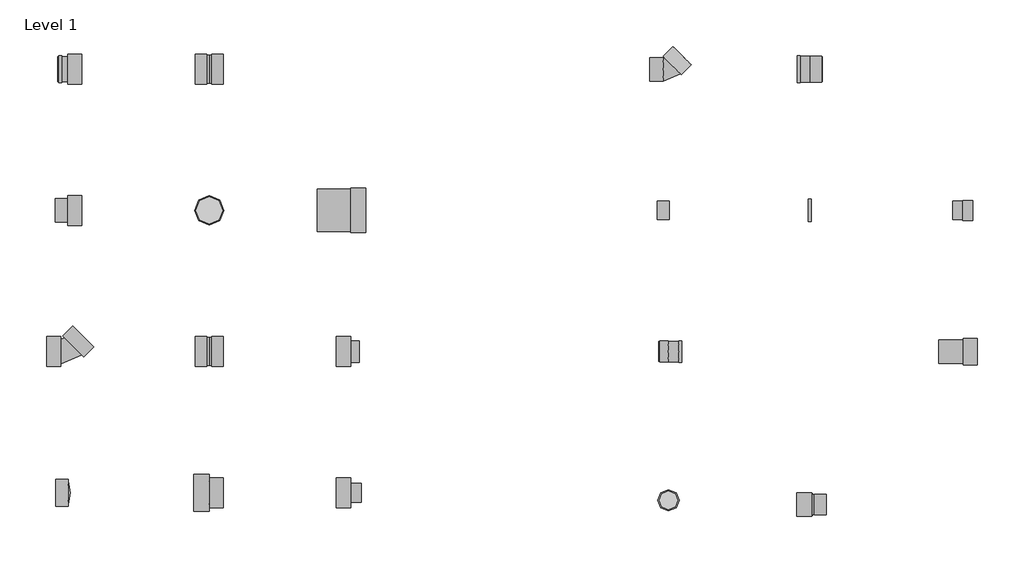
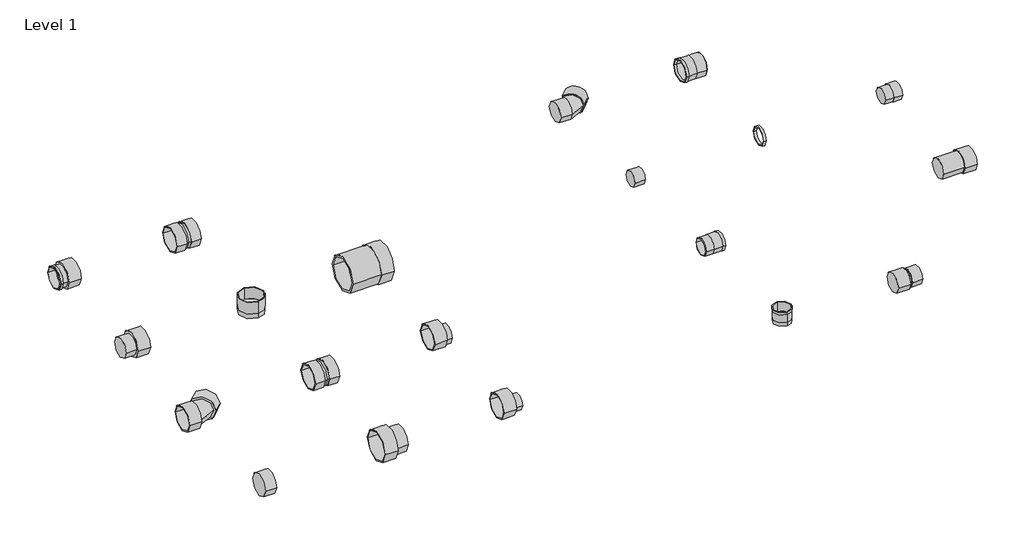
# One storey, incomplete: 20 pipe fittings.
"""IFC4 building model written with IfcOpenShell, lengths in millimetres."""

from ifc_helpers import new_model, si_unit, origin, place, context, project, spatial, transform, mapped, element, save
from components import pipe_fitting_cc6bbe59, pipe_fitting_8a5913c7, pipe_fitting_fdf45396, pipe_fitting_64016db7, pipe_fitting_c3827e3d, pipe_fitting_bfb84d33, pipe_fitting_59f1cc2e, pipe_fitting_40f565c3, pipe_fitting_63e97548, pipe_fitting_346089aa, pipe_fitting_23aedb06, pipe_fitting_160_3ae30848, pipe_fitting_160x160_6d9ae933, pipe_fitting_200_01b674ff, pipe_fitting_200x160_b7d51f9c, pipe_fitting_200x160_0dcb651a, pipe_fitting_200x200_a64cda1f, pipe_fitting_200x200_34b12068, pipe_fitting_200x200_617974e3, pipe_fitting_300x315_3f0d24aa

model = new_model("IFC4")

# Units and contexts
model_context = context("Model", 3, world=origin())
ifc_project = project(units=[si_unit("LENGTHUNIT", "METRE", prefix="MILLI")], contexts=[model_context])

# Site, building, storey
site = spatial("IfcSite", under=ifc_project)
building = spatial("IfcBuilding", under=site)
storey = spatial("IfcBuildingStorey", under=building, Name="Level 1", Elevation=0.0)

# Pipe fittings
placement = place(None, origin())
pipe_fitting_shape = pipe_fitting_cc6bbe59(model_context)
element("IfcPipeFitting", 1, ObjectType="Pipelife - Pragma OD - Kolano kanalizacyjne : Pipelife - Pragma OD - Kolano kanalizacyjne", at=placement, inside=storey, context=model_context, shape_type="MappedRepresentation", body=[
    mapped(pipe_fitting_shape, transform((-11832.6671252, 586.050427, 0.0), x_axis=(1.0, 0.0, 0.0), y_axis=(0.0, 1.0, 0.0), z_axis=(0.0, 0.0, 1.0))),
])
pipe_fitting_2_shape = pipe_fitting_8a5913c7(model_context)
element("IfcPipeFitting", 2, ObjectType="Pipelife - Pragma OD - Nasuwka kanalizacyjna : Pipelife - Pragma OD - Nasuwka kanalizacyjna", at=placement, inside=storey, context=model_context, shape_type="MappedRepresentation", body=[
    mapped(pipe_fitting_2_shape, transform((-10632.6671252, 586.050427, 0.0), x_axis=(1.0, 0.0, 0.0), y_axis=(0.0, 1.0, 0.0), z_axis=(0.0, 0.0, 1.0))),
])
pipe_fitting_3_shape = pipe_fitting_fdf45396(model_context)
element("IfcPipeFitting", 3, ObjectType="Pipelife - Pragma OD - Łącznik kanalizacyjny : Pipelife - Pragma OD - Łącznik kanalizacyjny", at=placement, inside=storey, context=model_context, shape_type="MappedRepresentation", body=[
    mapped(pipe_fitting_3_shape, transform((-11832.6671252, -1813.949573, 0.0), x_axis=(1.0, 0.0, 0.0), y_axis=(0.0, 1.0, 0.0), z_axis=(0.0, 0.0, 1.0))),
])
pipe_fitting_4_shape = pipe_fitting_64016db7(model_context)
element("IfcPipeFitting", 4, ObjectType="Pipelife - Pragma +ID - Kolano kanalizacyjne : Pipelife - Pragma +ID - Kolano kanalizacyjne", at=placement, inside=storey, context=model_context, shape_type="MappedRepresentation", body=[
    mapped(pipe_fitting_4_shape, transform((-16932.6671252, -1813.949573, 0.0), x_axis=(1.0, 0.0, 0.0), y_axis=(0.0, 1.0, 0.0), z_axis=(0.0, 0.0, 1.0))),
])
pipe_fitting_5_shape = pipe_fitting_c3827e3d(model_context)
element("IfcPipeFitting", 5, ObjectType="Pipelife - Pragma +ID - Korek kanalizacyjny : Pipelife - Pragma +ID - Korek kanalizacyjny", at=placement, inside=storey, context=model_context, shape_type="MappedRepresentation", body=[
    mapped(pipe_fitting_5_shape, transform((-16932.6671252, -3013.949573, 0.0), x_axis=(1.0, 0.0, 0.0), y_axis=(0.0, 1.0, 0.0), z_axis=(0.0, 0.0, 1.0))),
])
pipe_fitting_6_shape = pipe_fitting_bfb84d33(model_context)
element("IfcPipeFitting", 6, ObjectType="Pipelife - Pragma +ID - Łącznik kanałowy : Pipelife - Pragma +ID - Łącznik kanałowy", at=placement, inside=storey, context=model_context, shape_type="MappedRepresentation", body=[
    mapped(pipe_fitting_6_shape, transform((-15732.6671252, 586.050427, 0.0), x_axis=(1.0, 0.0, 0.0), y_axis=(0.0, 1.0, 0.0), z_axis=(0.0, 0.0, 1.0))),
])
pipe_fitting_7_shape = pipe_fitting_59f1cc2e(model_context)
element("IfcPipeFitting", 7, ObjectType="Pipelife - Pragma +ID - Nasuwka reparacyjna : Pipelife - Pragma +ID - Nasuwka reparacyjna", at=placement, inside=storey, context=model_context, shape_type="MappedRepresentation", body=[
    mapped(pipe_fitting_7_shape, transform((-15732.6671252, -1813.949573, 0.0), x_axis=(1.0, 0.0, 0.0), y_axis=(0.0, 1.0, 0.0), z_axis=(0.0, 0.0, 1.0))),
])
pipe_fitting_8_shape = pipe_fitting_40f565c3(model_context)
element("IfcPipeFitting", 8, ObjectType="Pipelife - Pragma +ID - Redukcja kanalizacyjna : Pipelife - Pragma +ID - Redukcja kanalizacyjna", at=placement, inside=storey, context=model_context, shape_type="MappedRepresentation", body=[
    mapped(pipe_fitting_8_shape, transform((-15732.6671252, -3013.949573, 0.0), x_axis=(1.0, 0.0, 0.0), y_axis=(0.0, 1.0, 0.0), z_axis=(0.0, 0.0, 1.0))),
])
pipe_fitting_9_shape = pipe_fitting_63e97548(model_context)
element("IfcPipeFitting", 9, ObjectType="Pipelife - Pragma OD - Korek kanalizacyjny : Pipelife - Pragma OD - Korek kanalizacyjny", at=placement, inside=storey, context=model_context, shape_type="MappedRepresentation", body=[
    mapped(pipe_fitting_9_shape, transform((-11832.6671252, -613.949573, 0.0), x_axis=(1.0, 0.0, 0.0), y_axis=(0.0, 1.0, 0.0), z_axis=(0.0, 0.0, 1.0))),
])
pipe_fitting_10_shape = pipe_fitting_346089aa(model_context)
element("IfcPipeFitting", 10, ObjectType="Pipelife - Pragma OD - Pierścień z uszczelką : Pipelife - Pragma OD - Pierścień z uszczelką", at=placement, inside=storey, context=model_context, shape_type="MappedRepresentation", body=[
    mapped(pipe_fitting_10_shape, transform((-10632.6671252, -613.949573, 0.0), x_axis=(1.0, 0.0, 0.0), y_axis=(0.0, 1.0, 0.0), z_axis=(0.0, 0.0, 1.0))),
])
pipe_fitting_11_shape = pipe_fitting_23aedb06(model_context)
element("IfcPipeFitting", 11, ObjectType="Pipelife - Pragma OD - Redukcja kanalizacyjna : Pipelife - Pragma OD - Redukcja kanalizacyjna", at=placement, inside=storey, context=model_context, shape_type="MappedRepresentation", body=[
    mapped(pipe_fitting_11_shape, transform((-10632.6671252, -3113.949573, 0.0), x_axis=(1.0, 0.0, 0.0), y_axis=(0.0, 1.0, 0.0), z_axis=(0.0, 0.0, 1.0))),
])
pipe_fitting_160_shape = pipe_fitting_160_3ae30848(model_context)
element("IfcPipeFitting", 12, ObjectType="Pipelife - Pragma OD - Mufa rotacyjna kanalizacyjna : 160", at=placement, inside=storey, context=model_context, shape_type="MappedRepresentation", body=[
    mapped(pipe_fitting_160_shape, transform((-11832.6671252, -3078.2126432, 100.0), x_axis=(1.0, 0.0, 0.0), y_axis=(0.0, 1.0, 0.0), z_axis=(0.0, 0.0, 1.0))),
])
pipe_fitting_160x160_shape = pipe_fitting_160x160_6d9ae933(model_context)
element("IfcPipeFitting", 13, ObjectType="Pipelife - Pragma OD - Złączka do kielicha PVC : 160x160", at=placement, inside=storey, context=model_context, shape_type="MappedRepresentation", body=[
    mapped(pipe_fitting_160x160_shape, transform((-9332.6671252, -613.949573, 0.0), x_axis=(1.0, 0.0, 0.0), y_axis=(0.0, 1.0, 0.0), z_axis=(0.0, 0.0, 1.0))),
])
pipe_fitting_200_shape = pipe_fitting_200_01b674ff(model_context)
element("IfcPipeFitting", 14, ObjectType="Pipelife - Pragma +ID - Mufa rotacyjna kanalizacyjna : 200", at=placement, inside=storey, context=model_context, shape_type="MappedRepresentation", body=[
    mapped(pipe_fitting_200_shape, transform((-15732.6671252, -613.949573, 100.0), x_axis=(1.0, 0.0, 0.0), y_axis=(0.0, 1.0, 0.0), z_axis=(0.0, 0.0, 1.0))),
])
pipe_fitting_200x160_shape = pipe_fitting_200x160_b7d51f9c(model_context)
element("IfcPipeFitting", 15, ObjectType="Pipelife - Pragma +ID - Redukcja kanalizacyjna bosa : 200x160", at=placement, inside=storey, context=model_context, shape_type="MappedRepresentation", body=[
    mapped(pipe_fitting_200x160_shape, transform((-14532.6671252, -1813.949573, 0.0), x_axis=(1.0, 0.0, 0.0), y_axis=(0.0, 1.0, 0.0), z_axis=(0.0, 0.0, 1.0))),
])
pipe_fitting_200x160_2_shape = pipe_fitting_200x160_0dcb651a(model_context)
element("IfcPipeFitting", 16, ObjectType="Pipelife - Pragma +ID - Redukcja kanalizacyjna kielich : 200x160", at=placement, inside=storey, context=model_context, shape_type="MappedRepresentation", body=[
    mapped(pipe_fitting_200x160_2_shape, transform((-14532.6671252, -3013.949573, 0.0), x_axis=(1.0, 0.0, 0.0), y_axis=(0.0, 1.0, 0.0), z_axis=(0.0, 0.0, 1.0))),
])
pipe_fitting_200x200_shape = pipe_fitting_200x200_a64cda1f(model_context)
element("IfcPipeFitting", 17, ObjectType="Pipelife - Pragma OD - Adaptor kanalizacyjny : 200x200", at=placement, inside=storey, context=model_context, shape_type="MappedRepresentation", body=[
    mapped(pipe_fitting_200x200_shape, transform((-9332.6671252, -1813.949573, 0.0), x_axis=(1.0, 0.0, 0.0), y_axis=(0.0, 1.0, 0.0), z_axis=(0.0, 0.0, 1.0))),
])
pipe_fitting_200x200_2_shape = pipe_fitting_200x200_34b12068(model_context)
element("IfcPipeFitting", 18, ObjectType="Pipelife - Pragma +ID - Adaptor kanalizacyjny bosy : 200x200", at=placement, inside=storey, context=model_context, shape_type="MappedRepresentation", body=[
    mapped(pipe_fitting_200x200_2_shape, transform((-16932.6671252, 586.050427, 0.0), x_axis=(1.0, 0.0, 0.0), y_axis=(0.0, 1.0, 0.0), z_axis=(0.0, 0.0, 1.0))),
])
pipe_fitting_200x200_3_shape = pipe_fitting_200x200_617974e3(model_context)
element("IfcPipeFitting", 19, ObjectType="Pipelife - Pragma +ID - Adaptor kanalizacyjny kielich : 200x200", at=placement, inside=storey, context=model_context, shape_type="MappedRepresentation", body=[
    mapped(pipe_fitting_200x200_3_shape, transform((-16932.6671252, -613.949573, 0.0), x_axis=(1.0, 0.0, 0.0), y_axis=(0.0, 1.0, 0.0), z_axis=(0.0, 0.0, 1.0))),
])
pipe_fitting_300x315_shape = pipe_fitting_300x315_3f0d24aa(model_context)
element("IfcPipeFitting", 20, ObjectType="Pipelife - Pragma +ID - Złączka kanalizacyjna : 300x315", at=placement, inside=storey, context=model_context, shape_type="MappedRepresentation", body=[
    mapped(pipe_fitting_300x315_shape, transform((-14532.6671252, -613.949573, 0.0), x_axis=(1.0, 0.0, 0.0), y_axis=(0.0, 1.0, 0.0), z_axis=(0.0, 0.0, 1.0))),
])

save(model, "model.ifc")
